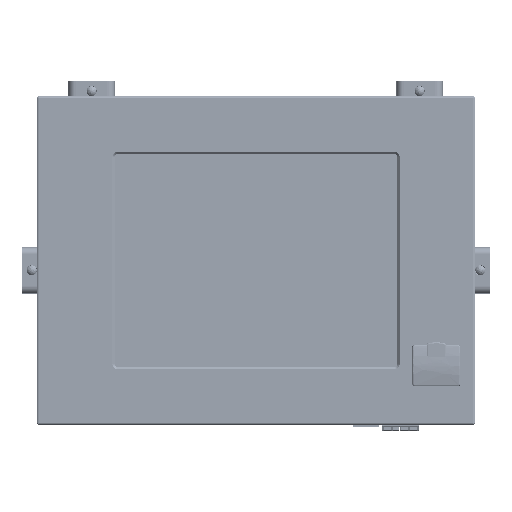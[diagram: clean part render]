
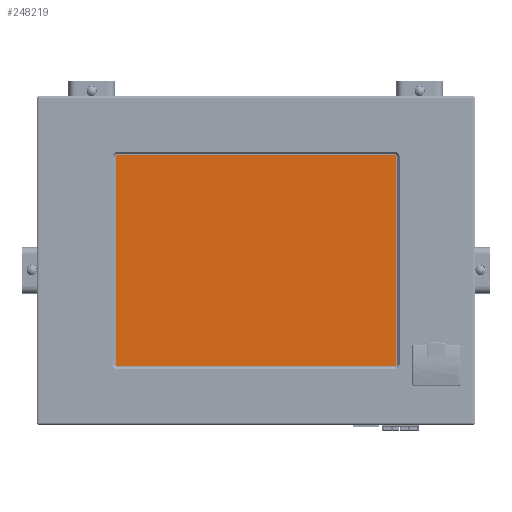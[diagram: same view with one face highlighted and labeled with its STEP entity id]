
A CAD part, top view. The second image highlights one B-rep face of the part: STEP entity #248219.
In plain terms, the highlighted planar face has unit normal (0, 0, 1).
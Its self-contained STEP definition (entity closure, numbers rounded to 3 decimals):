
#1 = CARTESIAN_POINT ( 'NONE',  ( 89.995, 24.3, -0.8 ) ) ;
#245751 = FACE_OUTER_BOUND ( 'NONE', #248784, .T. ) ;
#245812 = LINE ( 'NONE', #245931, #245929 ) ;
#245845 = CARTESIAN_POINT ( 'NONE',  ( 32.395, 24.3, -0.8 ) ) ;
#245847 = DIRECTION ( 'NONE',  ( 0., -1., 0. ) ) ;
#245848 = VECTOR ( 'NONE', #245847, 1000. ) ;
#245849 = CARTESIAN_POINT ( 'NONE',  ( 32.395, 67.5, -0.8 ) ) ;
#245850 = LINE ( 'NONE', #245849, #245848 ) ;
#245854 = DIRECTION ( 'NONE',  ( 1., 0., 0. ) ) ;
#245856 = DIRECTION ( 'NONE',  ( 0., 0., 1. ) ) ;
#245857 = AXIS2_PLACEMENT_3D ( 'NONE', #245868, #245856, #245854 ) ;
#245868 = CARTESIAN_POINT ( 'NONE',  ( 32.395, 24.3, -0.8 ) ) ;
#245869 = PLANE ( 'NONE',  #245857 ) ;
#245926 = CARTESIAN_POINT ( 'NONE',  ( 32.395, 110.7, -0.8 ) ) ;
#245927 = DIRECTION ( 'NONE',  ( -1., 0., 0. ) ) ;
#245929 = VECTOR ( 'NONE', #245927, 1000. ) ;
#245931 = CARTESIAN_POINT ( 'NONE',  ( 89.995, 110.7, -0.8 ) ) ;
#248219 = ADVANCED_FACE ( 'NONE', ( #245751 ), #245869, .T. ) ;
#248222 = EDGE_CURVE ( 'NONE', #248236, #248223, #245850, .T. ) ;
#248223 = VERTEX_POINT ( 'NONE', #245845 ) ;
#248225 = ORIENTED_EDGE ( 'NONE', *, *, #248491, .T. ) ;
#248234 = EDGE_CURVE ( 'NONE', #248341, #248236, #245812, .T. ) ;
#248236 = VERTEX_POINT ( 'NONE', #245926 ) ;
#248240 = ORIENTED_EDGE ( 'NONE', *, *, #248222, .T. ) ;
#248335 = EDGE_CURVE ( 'NONE', #248337, #248341, #286471, .T. ) ;
#248337 = VERTEX_POINT ( 'NONE', #286431 ) ;
#248341 = VERTEX_POINT ( 'NONE', #286414 ) ;
#248347 = ORIENTED_EDGE ( 'NONE', *, *, #248234, .T. ) ;
#248491 = EDGE_CURVE ( 'NONE', #248223, #248337, #287794, .T. ) ;
#248572 = ORIENTED_EDGE ( 'NONE', *, *, #248335, .T. ) ;
#248784 = EDGE_LOOP ( 'NONE', ( #248572, #248347, #248240, #248225 ) ) ;
#286414 = CARTESIAN_POINT ( 'NONE',  ( 147.595, 110.7, -0.8 ) ) ;
#286431 = CARTESIAN_POINT ( 'NONE',  ( 147.595, 24.3, -0.8 ) ) ;
#286447 = DIRECTION ( 'NONE',  ( 0., 1., 0. ) ) ;
#286448 = VECTOR ( 'NONE', #286447, 1000. ) ;
#286451 = CARTESIAN_POINT ( 'NONE',  ( 147.595, 67.5, -0.8 ) ) ;
#286471 = LINE ( 'NONE', #286451, #286448 ) ;
#287794 = LINE ( 'NONE', #1, #287924 ) ;
#287923 = DIRECTION ( 'NONE',  ( 1., 0., 0. ) ) ;
#287924 = VECTOR ( 'NONE', #287923, 1000. ) ;
